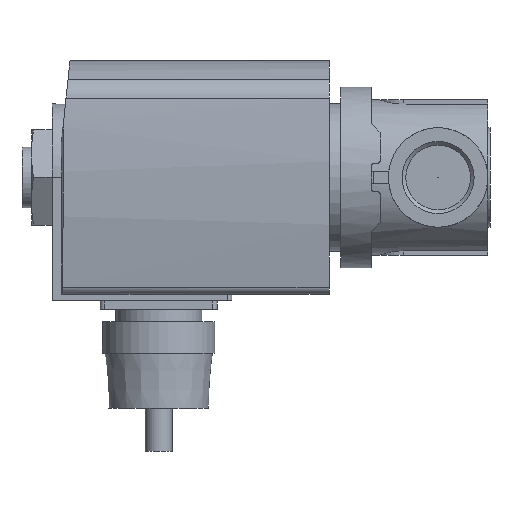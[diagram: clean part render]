
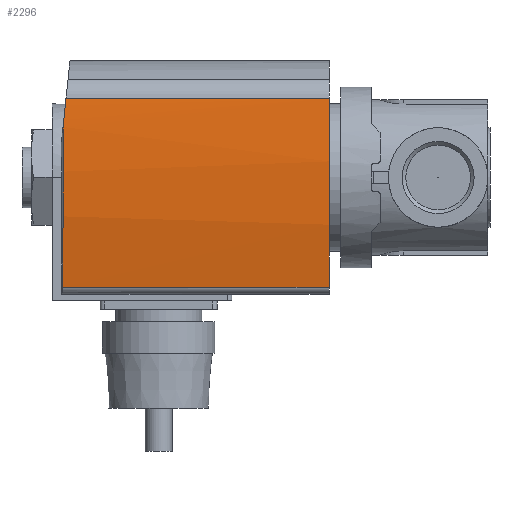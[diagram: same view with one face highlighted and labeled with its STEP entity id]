
A CAD part, left-side view. The second image highlights one B-rep face of the part: STEP entity #2296.
In plain terms, the highlighted cylindrical face has radius 130 mm (diameter 260 mm), a partial arc.
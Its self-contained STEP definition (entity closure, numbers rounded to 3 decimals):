
#50=ELLIPSE('',#2442,130.497,130.);
#51=ELLIPSE('',#2445,130.716,130.);
#100=CYLINDRICAL_SURFACE('',#2443,130.);
#144=CIRCLE('',#2444,130.);
#268=ORIENTED_EDGE('',*,*,#814,.F.);
#269=ORIENTED_EDGE('',*,*,#806,.T.);
#270=ORIENTED_EDGE('',*,*,#816,.T.);
#271=ORIENTED_EDGE('',*,*,#817,.F.);
#272=ORIENTED_EDGE('',*,*,#818,.F.);
#806=EDGE_CURVE('',#1082,#1081,#1268,.T.);
#814=EDGE_CURVE('',#1082,#1088,#50,.T.);
#816=EDGE_CURVE('',#1081,#1089,#144,.T.);
#817=EDGE_CURVE('',#1090,#1089,#1273,.T.);
#818=EDGE_CURVE('',#1088,#1090,#51,.T.);
#1081=VERTEX_POINT('',#3352);
#1082=VERTEX_POINT('',#3354);
#1088=VERTEX_POINT('',#3370);
#1089=VERTEX_POINT('',#3374);
#1090=VERTEX_POINT('',#3376);
#1268=LINE('',#3353,#1395);
#1273=LINE('',#3375,#1400);
#1395=VECTOR('',#2707,1000.);
#1400=VECTOR('',#2730,1000.);
#1514=EDGE_LOOP('',(#268,#269,#270,#271,#272));
#1682=FACE_BOUND('',#1514,.T.);
#2296=ADVANCED_FACE('',(#1682),#100,.T.);
#2442=AXIS2_PLACEMENT_3D('',#3369,#2723,#2724);
#2443=AXIS2_PLACEMENT_3D('',#3372,#2726,#2727);
#2444=AXIS2_PLACEMENT_3D('',#3373,#2728,#2729);
#2445=AXIS2_PLACEMENT_3D('',#3377,#2731,#2732);
#2707=DIRECTION('',(0.,-1.,0.));
#2723=DIRECTION('',(0.,0.996,0.087));
#2724=DIRECTION('',(0.,-0.087,0.996));
#2726=DIRECTION('',(0.,-1.,0.));
#2727=DIRECTION('',(0.,0.,-1.));
#2728=DIRECTION('',(0.,1.,0.));
#2729=DIRECTION('',(1.,0.,0.));
#2730=DIRECTION('',(0.,-1.,0.));
#2731=DIRECTION('',(0.105,0.995,0.));
#2732=DIRECTION('',(0.995,-0.105,0.));
#3352=CARTESIAN_POINT('',(-25.391,-39.4,18.646));
#3353=CARTESIAN_POINT('',(-25.391,22.6,18.646));
#3354=CARTESIAN_POINT('',(-25.391,22.281,18.646));
#3369=CARTESIAN_POINT('',(0.,33.435,-108.85));
#3370=CARTESIAN_POINT('',(11.681,22.108,20.624));
#3372=CARTESIAN_POINT('',(0.,22.6,-108.85));
#3373=CARTESIAN_POINT('',(0.,-39.4,-108.85));
#3374=CARTESIAN_POINT('',(18.286,-39.4,19.857));
#3375=CARTESIAN_POINT('',(18.286,22.6,19.857));
#3376=CARTESIAN_POINT('',(18.286,21.414,19.857));
#3377=CARTESIAN_POINT('',(0.,23.336,-108.85));
